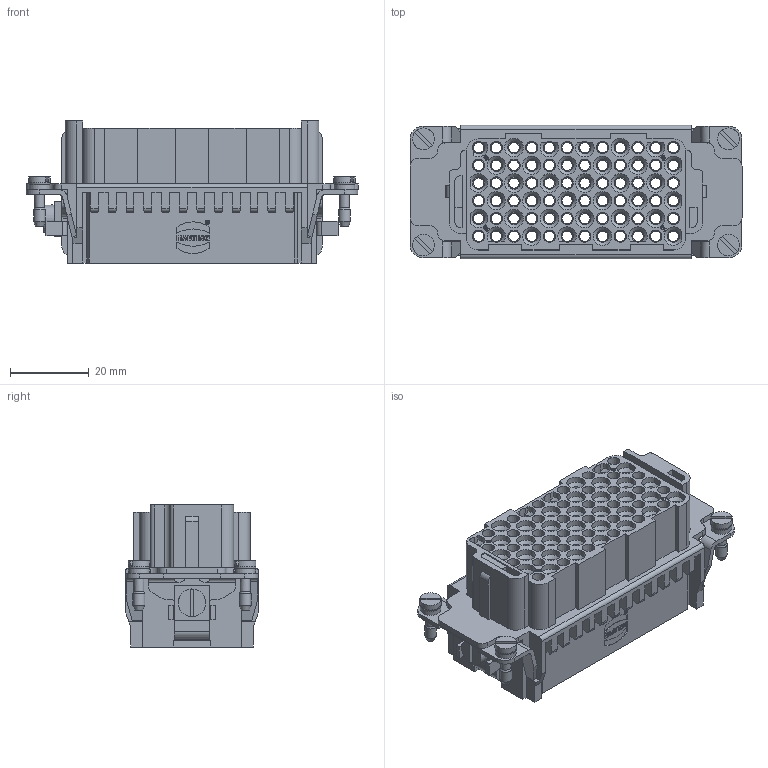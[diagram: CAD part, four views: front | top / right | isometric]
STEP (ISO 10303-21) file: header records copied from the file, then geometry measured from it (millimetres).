
FILE_DESCRIPTION(/* description */ (''),/* implementation_level */ '2;1');
FILE_NAME(/* name */ '100108210ugm000_c.stp',/* time_stamp */ '2022-03-11T14:41:45+01:00',/* author */ (''),/* organization */ (''),/* preprocessor_version */ 'ST-DEVELOPER v16.7',/* originating_system */ 'SIEMENS PLM Software NX 1911',/* authorisation */ '');
FILE_SCHEMA (('AUTOMOTIVE_DESIGN { 1 0 10303 214 3 1 1 1 }'));
Products named in the file (1): 100108210ugm000_c
Bounding box: 84.35 x 33.85 x 36.1 mm (x, y, z)
Volume: 40031.6 mm3; surface area: 41329.1 mm2
Topology: 1 solids, 1 shells, 1740 faces, 5007 edges, 3931 vertices
Faces by surface type: plane 726, cylinder 393, extrusion 357, cone 260, bspline 4
Full cylindrical faces by diameter (mm): 0.911 x1, 1.077 x1, 2.13 x1, 2.285 x1, 2.5 x4, 2.62 x72, 3 x4, 3.242 x1, 3.68 x72, 3.9 x72, 4.7 x24, 5.3 x4, 5.5 x4, 7 x1
Entity records: 59320 total; most frequent: CARTESIAN_POINT 14153, ORIENTED_EDGE 7784, DIRECTION 7368, EDGE_CURVE 3892, VERTEX_POINT 2802, VECTOR 2642, EDGE_LOOP 2540, AXIS2_PLACEMENT_3D 2363
